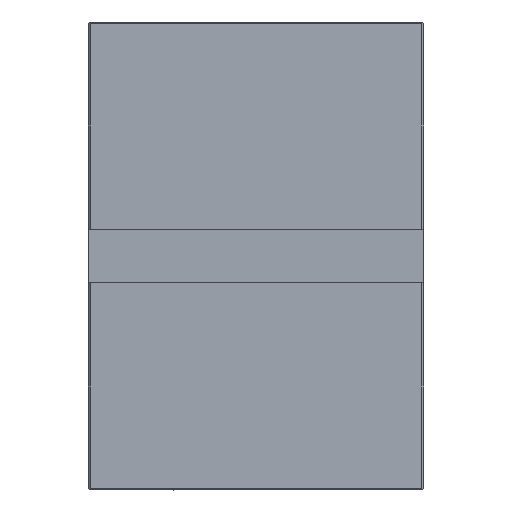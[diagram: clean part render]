
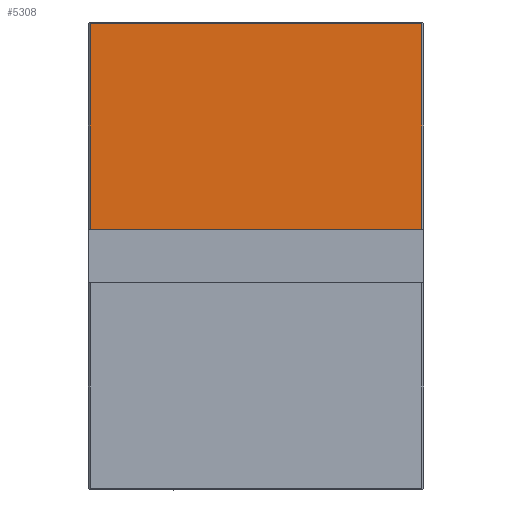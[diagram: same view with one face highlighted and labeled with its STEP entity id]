
A CAD part, front view. The second image highlights one B-rep face of the part: STEP entity #5308.
In plain terms, the highlighted planar face has unit normal (0, -1, 0).
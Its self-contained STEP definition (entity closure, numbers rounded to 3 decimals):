
#1815=DIRECTION('',(1.,0.,0.));
#1816=VECTOR('',#1815,124.8);
#1817=CARTESIAN_POINT('',(-62.4,-50.,-101.));
#1818=LINE('',#1817,#1816);
#1819=DIRECTION('',(0.,0.,-1.));
#1820=VECTOR('',#1819,77.4);
#1821=CARTESIAN_POINT('',(-62.4,-50.,-23.6));
#1822=LINE('',#1821,#1820);
#1823=DIRECTION('',(-1.,0.,0.));
#1824=VECTOR('',#1823,124.8);
#1825=CARTESIAN_POINT('',(62.4,-50.,-23.6));
#1826=LINE('',#1825,#1824);
#1827=DIRECTION('',(0.,0.,-1.));
#1828=VECTOR('',#1827,77.4);
#1829=CARTESIAN_POINT('',(62.4,-50.,-23.6));
#1830=LINE('',#1829,#1828);
#3306=CARTESIAN_POINT('',(62.4,-50.,-23.6));
#3307=CARTESIAN_POINT('',(-62.4,-50.,-23.6));
#3308=VERTEX_POINT('',#3306);
#3309=VERTEX_POINT('',#3307);
#3358=CARTESIAN_POINT('',(-62.4,-50.,-101.));
#3359=CARTESIAN_POINT('',(62.4,-50.,-101.));
#3360=VERTEX_POINT('',#3358);
#3361=VERTEX_POINT('',#3359);
#5296=CARTESIAN_POINT('',(-63.,-50.,-199.));
#5297=DIRECTION('',(0.,-1.,0.));
#5298=DIRECTION('',(1.,0.,0.));
#5299=AXIS2_PLACEMENT_3D('',#5296,#5297,#5298);
#5300=PLANE('',#5299);
#5301=ORIENTED_EDGE('',*,*,#5286,.F.);
#5302=ORIENTED_EDGE('',*,*,#5258,.F.);
#5303=ORIENTED_EDGE('',*,*,#4316,.F.);
#5305=ORIENTED_EDGE('',*,*,#5304,.T.);
#5306=EDGE_LOOP('',(#5301,#5302,#5303,#5305));
#5307=FACE_OUTER_BOUND('',#5306,.F.);
#5308=ADVANCED_FACE('',(#5307),#5300,.T.);
#4316=EDGE_CURVE('',#3308,#3309,#1826,.T.);
#5258=EDGE_CURVE('',#3309,#3360,#1822,.T.);
#5286=EDGE_CURVE('',#3360,#3361,#1818,.T.);
#5304=EDGE_CURVE('',#3308,#3361,#1830,.T.);
